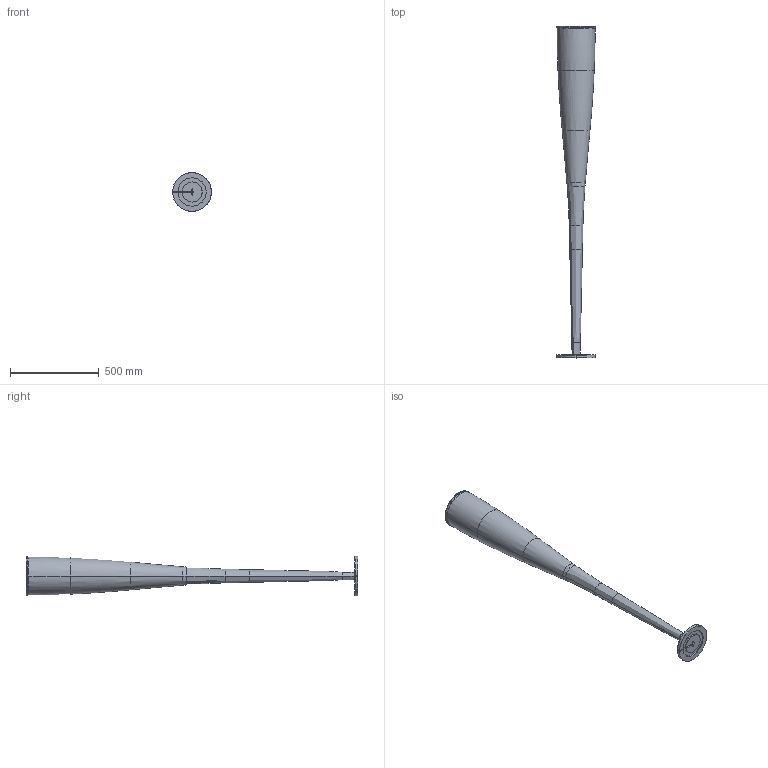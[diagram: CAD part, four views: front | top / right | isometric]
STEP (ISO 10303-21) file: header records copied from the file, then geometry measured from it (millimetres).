
FILE_DESCRIPTION (( 'STEP AP214' ), '1' );
FILE_NAME ('111_STD_F_PL_3D.STEP', '2021-05-04T09:01:24', ( '' ), ( '' ), 'SwSTEP 2.0', 'SolidWorks 2021', '' );
FILE_SCHEMA (( 'AUTOMOTIVE_DESIGN' ));
Length unit declared in the file: millimetre
Products named in the file (1): 111_STD_F_PL_3D
Bounding box: 218.81 x 1867.45 x 220 mm (x, y, z)
Volume: 1082163.3 mm3; surface area: 1529516.9 mm2
Topology: 7 solids, 7 shells, 201 faces, 449 edges, 263 vertices
Faces by surface type: cylinder 76, torus 62, cone 36, plane 25, bspline 2
Entity records: 8212 total; most frequent: CARTESIAN_POINT 1238, DIRECTION 1122, ORIENTED_EDGE 898, AXIS2_PLACEMENT_3D 497, EDGE_CURVE 449, CIRCLE 297, VERTEX_POINT 263, EDGE_LOOP 222
